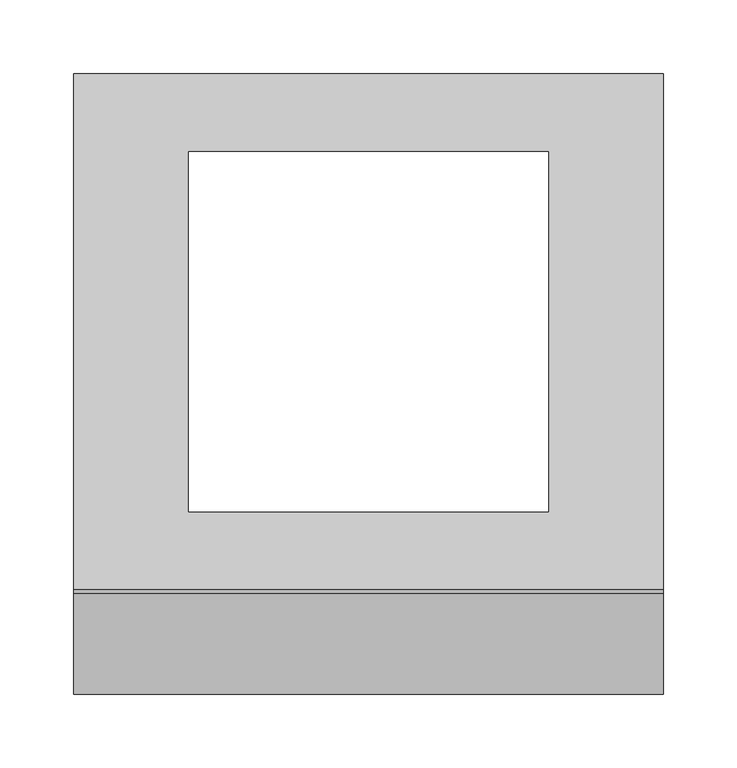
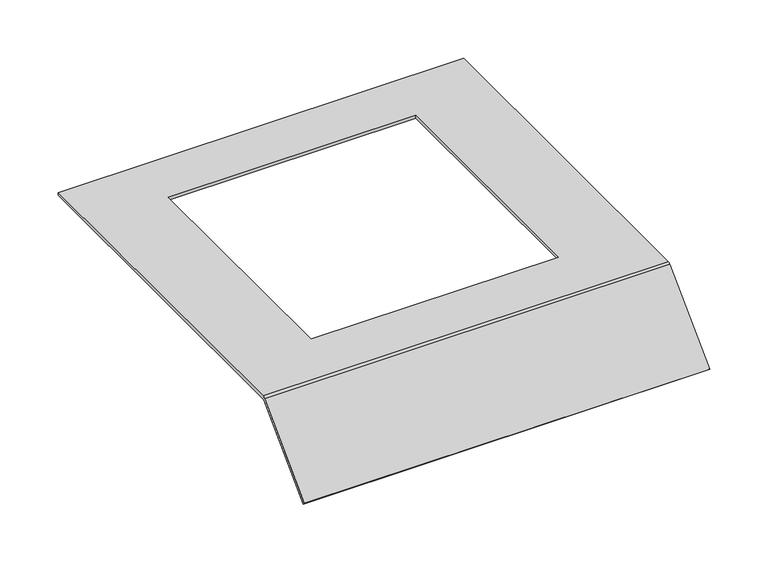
"""IFC4 building model written with IfcOpenShell, lengths in millimetres: proxy geometry, Electrical_Installation_Hager_Covers-With-Installation-Opening-Q12 : Electrical_Installation_Hager_Covers-With-Installation-Opening-Q12."""

from ifc_helpers import new_model, si_unit, frame, origin, place, context, project, spatial, polyline, circle_curve, source, transform, mapped, element, save
from ifc_brep_helpers import plane_surface, cylinder_surface, revolved_surface, advanced_brep


def electrical_fixtures_814ce579(model_context):
    return source(origin(), model_context, "Body", "AdvancedBrep", [
        advanced_brep(
        [(0.0, 175.0, 40.5), (0.0, 175.0, 37.5), (0.0, -174.8229541, 37.5), (0.0, -175.8322972, 37.0819164), (0.0, -243.712807, -30.7985934), (0.0, -245.8341273, -28.6772731), (0.0, -177.8206472, 39.336207), (0.0, -175.0110025, 40.5), (400.0, 175.0, 40.5), (400.0, -175.0110025, 40.5), (400.0, -177.8206472, 39.336207), (400.0, -245.8341273, -28.6772731), (400.0, -243.712807, -30.7985934), (400.0, -175.8322972, 37.0819164), (400.0, -174.8229541, 37.5), (400.0, 175.0, 37.5), (322.0, 122.0, 37.5), (78.0, 122.0, 37.5), (78.0, -122.0, 37.5), (322.0, -122.0, 37.5), (78.0, 122.0, 40.5), (322.0, 122.0, 40.5), (322.0, -122.0, 40.5), (78.0, -122.0, 40.5)],
        [
            (0, 1),
            (1, 2),
            (2, 3, circle_curve(frame((0.0, -174.8229541, 36.0725733), z_axis=(1.0, 0.0, 0.0), x_axis=(0.0, 1.0, 0.0)), 1.4274267)),
            (3, 4),
            (4, 5),
            (5, 6),
            (6, 7, circle_curve(frame((0.0, -175.0110025, 36.5265623), z_axis=(-1.0, 0.0, 0.0), x_axis=(0.0, 1.0, 0.0)), 3.9734377)),
            (7, 0),
            (8, 9),
            (9, 10, circle_curve(frame((400.0, -175.0110025, 36.5265623), z_axis=(1.0, 0.0, 0.0), x_axis=(0.0, 1.0, 0.0)), 3.9734377)),
            (10, 11),
            (11, 12),
            (12, 13),
            (13, 14, circle_curve(frame((400.0, -174.8229541, 36.0725733), z_axis=(-1.0, 0.0, 0.0), x_axis=(0.0, 1.0, 0.0)), 1.4274267)),
            (14, 15),
            (15, 8),
            (0, 8),
            (15, 1),
            (14, 2),
            (16, 17),
            (17, 18),
            (18, 19),
            (19, 16),
            (13, 3),
            (12, 4),
            (11, 5),
            (10, 6),
            (9, 7),
            (20, 21),
            (21, 22),
            (22, 23),
            (23, 20),
            (16, 21),
            (20, 17),
            (23, 18),
            (22, 19),
        ],
        [
            plane_surface(frame((0.0, 0.3269864, 15.0), z_axis=(-1.0, 0.0, 0.0), x_axis=(0.0, 0.0, 1.0))),
            plane_surface(frame((400.0, 0.3269864, 15.0), z_axis=(1.0, 0.0, 0.0), x_axis=(0.0, 0.0, 1.0))),
            plane_surface(frame((0.0, 175.0, 40.5), z_axis=(0.0, 1.0, 0.0), x_axis=(1.0, 0.0, 0.0))),
            plane_surface(frame((0.0, 175.0, 37.5), z_axis=(0.0, 0.0, -1.0), x_axis=(1.0, 0.0, 0.0))),
            revolved_surface(polyline([(400.0, -173.3955274, 36.0725733), (0.0, -173.3955274, 36.0725733)]), (0.0, -174.8229541, 36.0725733), (1.0, 0.0, 0.0)),
            plane_surface(frame((0.0, -175.8322972, 37.0819164), z_axis=(0.0, 0.7071067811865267, -0.7071067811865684), x_axis=(1.0, 0.0, 0.0))),
            plane_surface(frame((0.0, -243.712807, -30.7985934), z_axis=(0.0, -0.7071067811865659, -0.7071067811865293), x_axis=(1.0, 0.0, 0.0))),
            plane_surface(frame((0.0, -245.8341273, -28.6772731), z_axis=(0.0, -0.7071067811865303, 0.7071067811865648), x_axis=(1.0, 0.0, 0.0))),
            cylinder_surface(frame((0.0, -175.0110025, 36.5265623), z_axis=(-1.0, 0.0, 0.0), x_axis=(0.0, 1.0, 0.0)), 3.9734377),
            plane_surface(frame((0.0, -175.0110025, 40.5), z_axis=(0.0, 0.0, 1.0), x_axis=(1.0, 0.0, 0.0))),
            plane_surface(frame((322.0, 122.0, 250.0), z_axis=(0.0, -1.0, 0.0), x_axis=(0.0, 0.0, -1.0))),
            plane_surface(frame((78.0, 122.0, 250.0), z_axis=(1.0, 0.0, 0.0), x_axis=(0.0, 0.0, -1.0))),
            plane_surface(frame((78.0, -122.0, 250.0), z_axis=(0.0, 1.0, 0.0), x_axis=(0.0, 0.0, -1.0))),
            plane_surface(frame((322.0, -122.0, 250.0), z_axis=(-1.0, 0.0, 0.0), x_axis=(0.0, 0.0, -1.0))),
        ],
        [
            (0, [[1, 2, 3, 4, 5, 6, 7, 8]]),
            (1, [[9, 10, 11, 12, 13, 14, 15, 16]]),
            (2, [[-1, 17, -16, 18]]),
            (3, [[-2, -18, -15, 19], [20, 21, 22, 23]]),
            (4, [[-3, -19, -14, 24]]),
            (5, [[-4, -24, -13, 25]]),
            (6, [[-5, -25, -12, 26]]),
            (7, [[-6, -26, -11, 27]]),
            (8, [[-7, -27, -10, 28]]),
            (9, [[-8, -28, -9, -17], [29, 30, 31, 32]]),
            (10, [[33, -29, 34, -20]]),
            (11, [[-34, -32, 35, -21]]),
            (12, [[-35, -31, 36, -22]]),
            (13, [[-33, -23, -36, -30]]),
        ],
    ),
    ])


if __name__ == "__main__":
    model = new_model("IFC4")
    model_context = context("Model", 3, world=origin())
    ifc_project = project(units=[si_unit("LENGTHUNIT", "METRE", prefix="MILLI")], contexts=[model_context])
    site = spatial("IfcSite", under=ifc_project)
    building = spatial("IfcBuilding", under=site)
    placement = place(None, origin())
    electrical_fixtures_shape = electrical_fixtures_814ce579(model_context)
    element("IfcBuildingElementProxy", 1, Name="Electrical_Installation_Hager_Covers-With-Installation-Opening-Q12 : Electrical_Installation_Hager_Covers-With-Installation-Opening-Q12", ObjectType="Electrical_Installation_Hager_Covers-With-Installation-Opening-Q12 : Electrical_Installation_Hager_Covers-With-Installation-Opening-Q12", at=placement, inside=building, context=model_context, shape_type="MappedRepresentation", body=[
        mapped(electrical_fixtures_shape, transform((0.0, 0.0, 0.0), x_axis=(1.0, 0.0, 0.0), y_axis=(0.0, 1.0, 0.0), z_axis=(0.0, 0.0, 1.0))),
    ])
    save(model, "model.ifc")
